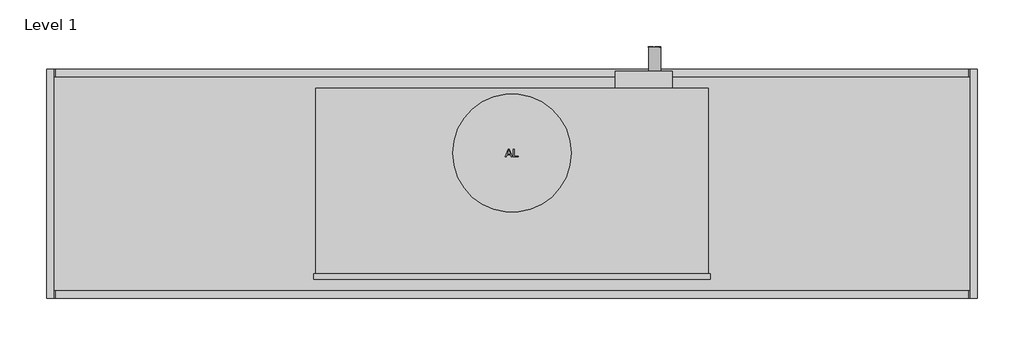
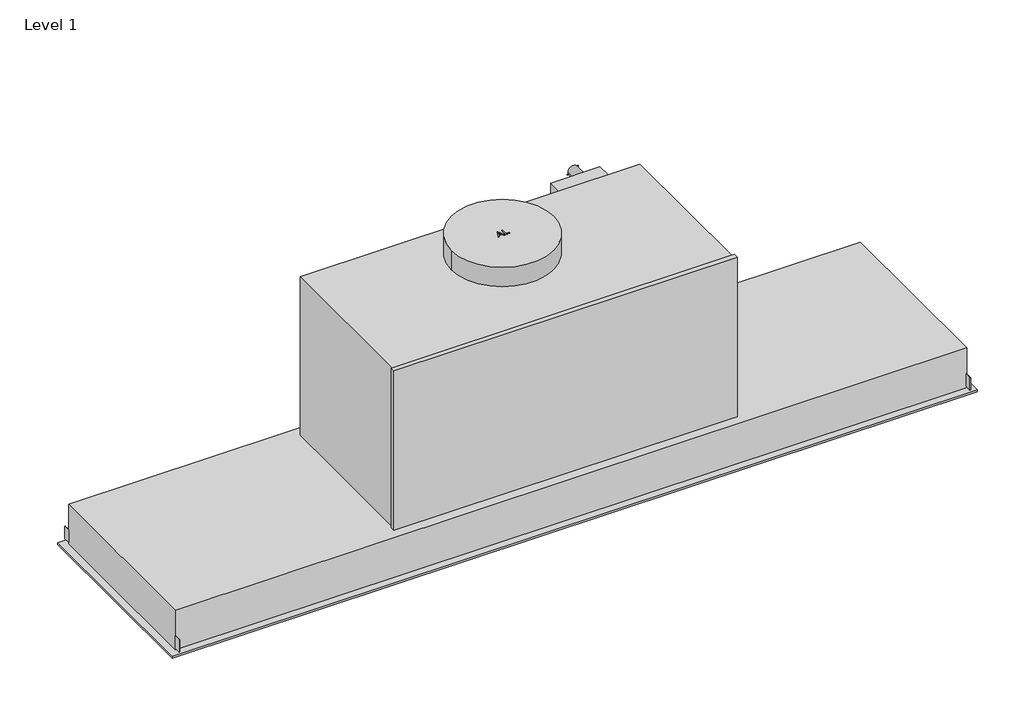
# One storey: 1 proxy.
"""IFC4 building model written with IfcOpenShell, lengths in millimetres."""

from ifc_helpers import new_model, si_unit, origin, place, context, project, spatial, transform, mapped, element, save
from components import specialty_equipment_85a93b48

model = new_model("IFC4")

# Units and contexts
model_context = context("Model", 3, world=origin())
ifc_project = project(units=[si_unit("LENGTHUNIT", "METRE", prefix="MILLI")], contexts=[model_context])

# Site, building, storey
site = spatial("IfcSite", under=ifc_project)
building = spatial("IfcBuilding", under=site)
storey = spatial("IfcBuildingStorey", under=building, Name="Level 1", Elevation=0.0)

# Proxy
placement = place(None, origin())
specialty_equipment_shape = specialty_equipment_85a93b48(model_context)
element("IfcBuildingElementProxy", 1, Name="10863220_RU_DA2628_EDST : 28262855_RU_10863220_DA2628_EDST", ObjectType="10863220_RU_DA2628_EDST : 28262855_RU_10863220_DA2628_EDST", at=placement, inside=storey, context=model_context, shape_type="MappedRepresentation", body=[
    mapped(specialty_equipment_shape, transform((0.0, 0.0, 0.0), x_axis=(1.0, 0.0, 0.0), y_axis=(0.0, 1.0, 0.0), z_axis=(0.0, 0.0, 1.0))),
])

save(model, "model.ifc")
